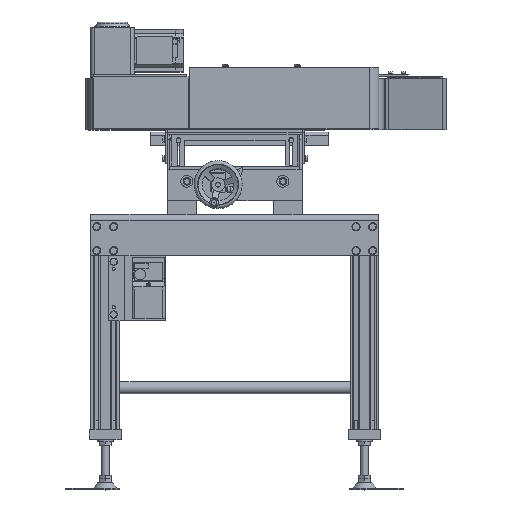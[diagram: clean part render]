
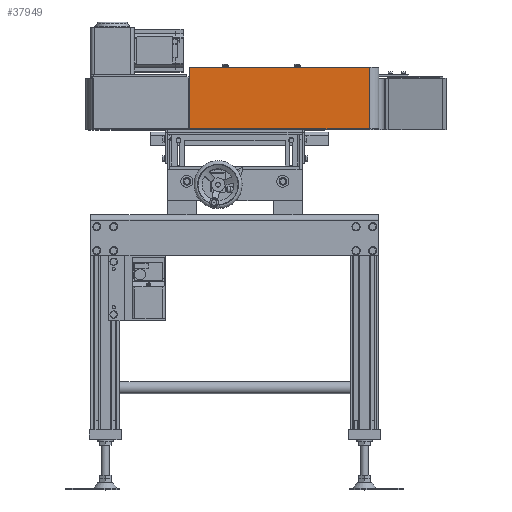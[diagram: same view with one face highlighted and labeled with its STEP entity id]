
A CAD part, top view. The second image highlights one B-rep face of the part: STEP entity #37949.
In plain terms, the highlighted planar face has unit normal (0, 0, 1).
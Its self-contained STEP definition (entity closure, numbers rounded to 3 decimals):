
#1080 = CARTESIAN_POINT ( 'NONE',  ( 205., 130., 109. ) ) ;
#1088 = DIRECTION ( 'NONE',  ( 0., -1., 0. ) ) ;
#1458 = CARTESIAN_POINT ( 'NONE',  ( 580., 130., 109. ) ) ;
#1622 = EDGE_CURVE ( 'NONE', #67037, #37618, #43887, .T. ) ;
#3998 = DIRECTION ( 'NONE',  ( 0., 0., -1. ) ) ;
#7532 = DIRECTION ( 'NONE',  ( -1., 0., 0. ) ) ;
#10469 = LINE ( 'NONE', #17261, #73301 ) ;
#12613 = ORIENTED_EDGE ( 'NONE', *, *, #1622, .T. ) ;
#17261 = CARTESIAN_POINT ( 'NONE',  ( 205., 2., 109. ) ) ;
#19306 = CARTESIAN_POINT ( 'NONE',  ( 580., 130., 109. ) ) ;
#23089 = AXIS2_PLACEMENT_3D ( 'NONE', #42659, #3998, #26852 ) ;
#24276 = DIRECTION ( 'NONE',  ( -1., 0., 0. ) ) ;
#26852 = DIRECTION ( 'NONE',  ( 1., 0., 0. ) ) ;
#30249 = EDGE_CURVE ( 'NONE', #87031, #45768, #10469, .T. ) ;
#31202 = CARTESIAN_POINT ( 'NONE',  ( 205., 2., 109. ) ) ;
#31539 = EDGE_LOOP ( 'NONE', ( #12613, #61526, #72249, #84595 ) ) ;
#34156 = PLANE ( 'NONE',  #23089 ) ;
#37618 = VERTEX_POINT ( 'NONE', #1080 ) ;
#37949 = ADVANCED_FACE ( 'NONE', ( #63846 ), #34156, .F. ) ;
#42659 = CARTESIAN_POINT ( 'NONE',  ( 205., 130., 109. ) ) ;
#43887 = LINE ( 'NONE', #68145, #48682 ) ;
#44171 = VECTOR ( 'NONE', #54062, 1000. ) ;
#45768 = VERTEX_POINT ( 'NONE', #31202 ) ;
#48682 = VECTOR ( 'NONE', #7532, 1000. ) ;
#54062 = DIRECTION ( 'NONE',  ( 0., -1., 0. ) ) ;
#58664 = CARTESIAN_POINT ( 'NONE',  ( 580., 2., 109. ) ) ;
#59713 = EDGE_CURVE ( 'NONE', #37618, #45768, #87681, .T. ) ;
#61526 = ORIENTED_EDGE ( 'NONE', *, *, #59713, .T. ) ;
#61981 = CARTESIAN_POINT ( 'NONE',  ( 205., 130., 109. ) ) ;
#63846 = FACE_OUTER_BOUND ( 'NONE', #31539, .T. ) ;
#67037 = VERTEX_POINT ( 'NONE', #19306 ) ;
#67895 = LINE ( 'NONE', #1458, #44171 ) ;
#68145 = CARTESIAN_POINT ( 'NONE',  ( 205., 130., 109. ) ) ;
#72249 = ORIENTED_EDGE ( 'NONE', *, *, #30249, .F. ) ;
#73301 = VECTOR ( 'NONE', #24276, 1000. ) ;
#84595 = ORIENTED_EDGE ( 'NONE', *, *, #95192, .F. ) ;
#87031 = VERTEX_POINT ( 'NONE', #58664 ) ;
#87681 = LINE ( 'NONE', #61981, #97130 ) ;
#95192 = EDGE_CURVE ( 'NONE', #67037, #87031, #67895, .T. ) ;
#97130 = VECTOR ( 'NONE', #1088, 1000. ) ;
